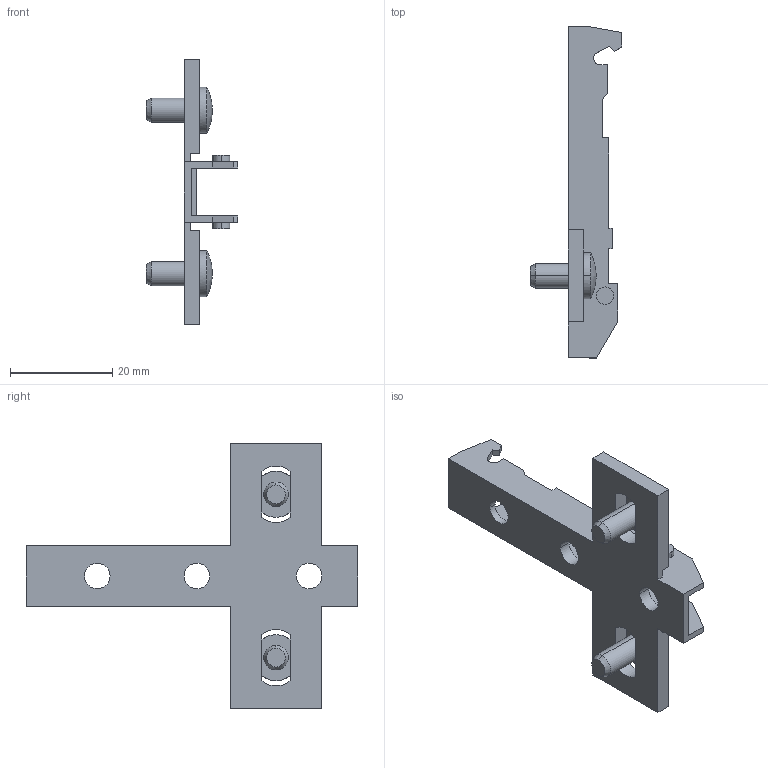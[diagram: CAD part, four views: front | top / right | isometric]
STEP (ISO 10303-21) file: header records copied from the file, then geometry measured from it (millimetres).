
FILE_DESCRIPTION (( 'STEP AP214' ), '1' );
FILE_NAME ('Eco Kreuzmontageplatte LR28_32_Euro_vorm. 10,5mm_H00.step', '2010-11-18T10:06:23', ( 'grass' ), ( '' ), 'SwSTEP 2.0', 'SolidWorks 2010', '' );
FILE_SCHEMA (( 'AUTOMOTIVE_DESIGN' ));
Length unit declared in the file: millimetre
Products named in the file (1): Eco Kreuzmontageplatte LR28_32_Euro_vorm. 10,5mm_H00
Bounding box: 18 x 65 x 52 mm (x, y, z)
Volume: 4637.7 mm3; surface area: 5800.5 mm2
Topology: 1 solids, 1 shells, 102 faces, 286 edges, 186 vertices
Faces by surface type: plane 70, cylinder 24, cone 4, sphere 4
Entity records: 3324 total; most frequent: CARTESIAN_POINT 575, ORIENTED_EDGE 572, DIRECTION 556, EDGE_CURVE 286, VECTOR 222, LINE 222, VERTEX_POINT 186, AXIS2_PLACEMENT_3D 167
